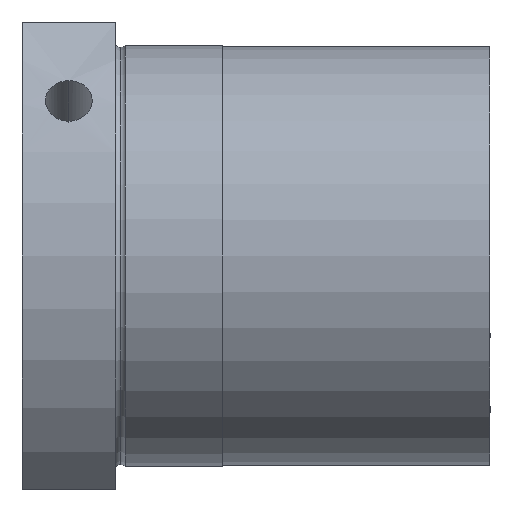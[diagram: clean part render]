
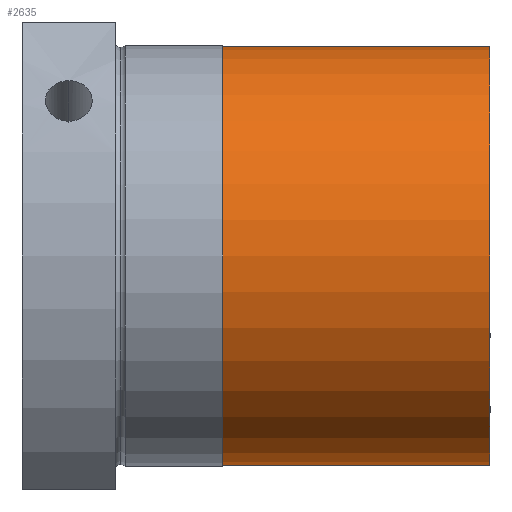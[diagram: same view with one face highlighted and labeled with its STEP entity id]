
A CAD part, front view. The second image highlights one B-rep face of the part: STEP entity #2635.
In plain terms, the highlighted cylindrical face has radius 31.35 mm (diameter 62.7 mm), a partial arc.
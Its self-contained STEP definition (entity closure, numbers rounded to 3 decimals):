
#97 = CYLINDRICAL_SURFACE ( 'NONE', #2510, 31.35 ) ;
#100 = CARTESIAN_POINT ( 'NONE',  ( -100.792, 0., -31.35 ) ) ;
#240 = FACE_OUTER_BOUND ( 'NONE', #3007, .T. ) ;
#581 = CARTESIAN_POINT ( 'NONE',  ( 52.309, 0., 0. ) ) ;
#749 = ORIENTED_EDGE ( 'NONE', *, *, #1879, .F. ) ;
#808 = VERTEX_POINT ( 'NONE', #2967 ) ;
#1010 = DIRECTION ( 'NONE',  ( 0., 0., 1. ) ) ;
#1030 = EDGE_CURVE ( 'NONE', #3801, #1685, #2573, .T. ) ;
#1228 = EDGE_CURVE ( 'NONE', #3801, #2210, #2326, .T. ) ;
#1245 = CIRCLE ( 'NONE', #1764, 31.35 ) ;
#1654 = CARTESIAN_POINT ( 'NONE',  ( 52.309, 0., 31.35 ) ) ;
#1666 = DIRECTION ( 'NONE',  ( -1., 0., 0. ) ) ;
#1685 = VERTEX_POINT ( 'NONE', #5291 ) ;
#1764 = AXIS2_PLACEMENT_3D ( 'NONE', #2436, #5341, #2860 ) ;
#1879 = EDGE_CURVE ( 'NONE', #1685, #808, #1245, .T. ) ;
#1946 = DIRECTION ( 'NONE',  ( -1., 0., 0. ) ) ;
#2152 = AXIS2_PLACEMENT_3D ( 'NONE', #581, #3565, #1010 ) ;
#2210 = VERTEX_POINT ( 'NONE', #1654 ) ;
#2228 = CARTESIAN_POINT ( 'NONE',  ( 52.309, 0., -31.35 ) ) ;
#2326 = CIRCLE ( 'NONE', #2152, 31.35 ) ;
#2352 = ORIENTED_EDGE ( 'NONE', *, *, #1228, .T. ) ;
#2436 = CARTESIAN_POINT ( 'NONE',  ( 12.309, 0., 0. ) ) ;
#2510 = AXIS2_PLACEMENT_3D ( 'NONE', #4181, #1666, #4592 ) ;
#2573 = LINE ( 'NONE', #100, #2789 ) ;
#2635 = ADVANCED_FACE ( 'NONE', ( #240 ), #97, .T. ) ;
#2672 = DIRECTION ( 'NONE',  ( -1., 0., 0. ) ) ;
#2789 = VECTOR ( 'NONE', #2672, 1000. ) ;
#2860 = DIRECTION ( 'NONE',  ( 0., 0., 1. ) ) ;
#2967 = CARTESIAN_POINT ( 'NONE',  ( 12.309, 0., 31.35 ) ) ;
#3007 = EDGE_LOOP ( 'NONE', ( #5131, #2352, #5151, #749 ) ) ;
#3114 = EDGE_CURVE ( 'NONE', #2210, #808, #4470, .T. ) ;
#3565 = DIRECTION ( 'NONE',  ( -1., 0., 0. ) ) ;
#3801 = VERTEX_POINT ( 'NONE', #2228 ) ;
#4181 = CARTESIAN_POINT ( 'NONE',  ( -100.792, 0., 0. ) ) ;
#4447 = CARTESIAN_POINT ( 'NONE',  ( -100.792, 0., 31.35 ) ) ;
#4470 = LINE ( 'NONE', #4447, #4909 ) ;
#4592 = DIRECTION ( 'NONE',  ( 0., 0., 1. ) ) ;
#4909 = VECTOR ( 'NONE', #1946, 1000. ) ;
#5131 = ORIENTED_EDGE ( 'NONE', *, *, #1030, .F. ) ;
#5151 = ORIENTED_EDGE ( 'NONE', *, *, #3114, .T. ) ;
#5291 = CARTESIAN_POINT ( 'NONE',  ( 12.309, 0., -31.35 ) ) ;
#5341 = DIRECTION ( 'NONE',  ( -1., 0., 0. ) ) ;
